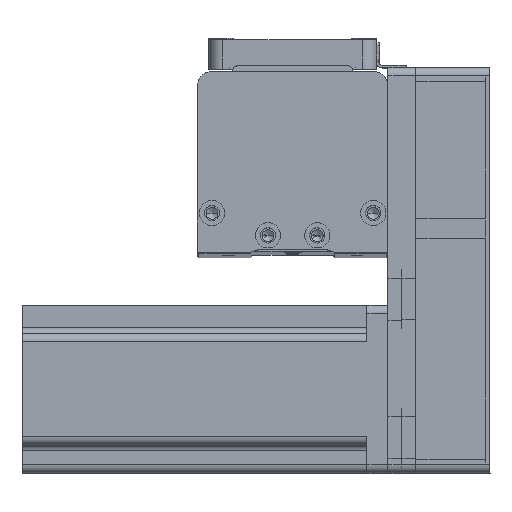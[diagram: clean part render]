
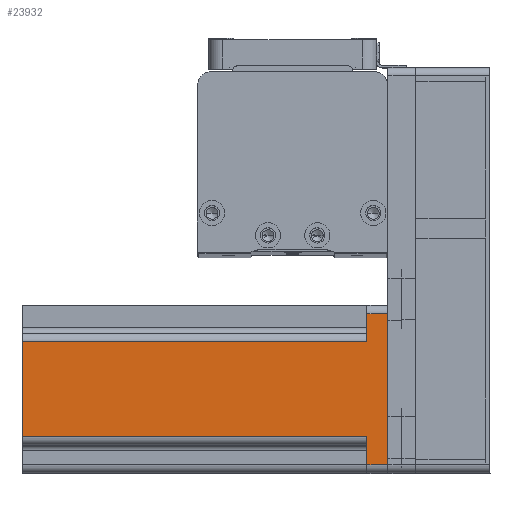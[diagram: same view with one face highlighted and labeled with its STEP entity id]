
A CAD part, top view. The second image highlights one B-rep face of the part: STEP entity #23932.
In plain terms, the highlighted planar face has unit normal (0, 0, 1) as drawn and (0, 1, 0) by its records, which use the part's own axes.
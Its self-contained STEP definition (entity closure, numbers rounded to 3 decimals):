
#1598 = CARTESIAN_POINT ( 'NONE',  ( -20., 30., 7.5 ) ) ;
#2434 = VECTOR ( 'NONE', #38667, 1000. ) ;
#2831 = LINE ( 'NONE', #17207, #29577 ) ;
#3116 = CARTESIAN_POINT ( 'NONE',  ( 27., 30., 7.5 ) ) ;
#4118 = EDGE_CURVE ( 'NONE', #18171, #44597, #33612, .T. ) ;
#4585 = CARTESIAN_POINT ( 'NONE',  ( 27., 30., 130.7 ) ) ;
#4853 = EDGE_CURVE ( 'NONE', #41421, #13151, #21013, .T. ) ;
#5223 = CARTESIAN_POINT ( 'NONE',  ( -27., 30., 0. ) ) ;
#5454 = ORIENTED_EDGE ( 'NONE', *, *, #15857, .F. ) ;
#7444 = DIRECTION ( 'NONE',  ( -1., 0., 0. ) ) ;
#7489 = CARTESIAN_POINT ( 'NONE',  ( 20., 30., 7.5 ) ) ;
#9439 = VECTOR ( 'NONE', #34073, 1000. ) ;
#9626 = AXIS2_PLACEMENT_3D ( 'NONE', #13494, #37873, #17005 ) ;
#9656 = CARTESIAN_POINT ( 'NONE',  ( -27., 30., 130.7 ) ) ;
#10354 = CARTESIAN_POINT ( 'NONE',  ( -17., 30., 7.5 ) ) ;
#11190 = ORIENTED_EDGE ( 'NONE', *, *, #35241, .T. ) ;
#11598 = DIRECTION ( 'NONE',  ( 0., 0., -1. ) ) ;
#12563 = VERTEX_POINT ( 'NONE', #3116 ) ;
#13151 = VERTEX_POINT ( 'NONE', #14376 ) ;
#13234 = ORIENTED_EDGE ( 'NONE', *, *, #4853, .T. ) ;
#13494 = CARTESIAN_POINT ( 'NONE',  ( 30., 30., 130.7 ) ) ;
#13636 = LINE ( 'NONE', #4585, #21825 ) ;
#14285 = CARTESIAN_POINT ( 'NONE',  ( 17., 30., 130.7 ) ) ;
#14376 = CARTESIAN_POINT ( 'NONE',  ( 17., 30., 7.5 ) ) ;
#14773 = EDGE_CURVE ( 'NONE', #44597, #32042, #17649, .T. ) ;
#15857 = EDGE_CURVE ( 'NONE', #12563, #13151, #32194, .T. ) ;
#16048 = VECTOR ( 'NONE', #20784, 1000. ) ;
#17005 = DIRECTION ( 'NONE',  ( 1., 0., 0. ) ) ;
#17207 = CARTESIAN_POINT ( 'NONE',  ( 30., 30., 130.7 ) ) ;
#17649 = LINE ( 'NONE', #9656, #9439 ) ;
#18171 = VERTEX_POINT ( 'NONE', #27467 ) ;
#20784 = DIRECTION ( 'NONE',  ( 0., 0., 1. ) ) ;
#21013 = LINE ( 'NONE', #14285, #2434 ) ;
#21785 = ORIENTED_EDGE ( 'NONE', *, *, #39098, .T. ) ;
#21825 = VECTOR ( 'NONE', #11598, 1000. ) ;
#22486 = CARTESIAN_POINT ( 'NONE',  ( -17., 30., 130.7 ) ) ;
#22992 = VERTEX_POINT ( 'NONE', #10354 ) ;
#23268 = ORIENTED_EDGE ( 'NONE', *, *, #4118, .T. ) ;
#23932 = ADVANCED_FACE ( 'NONE', ( #40353 ), #37712, .F. ) ;
#24331 = VECTOR ( 'NONE', #7444, 1000. ) ;
#25059 = ORIENTED_EDGE ( 'NONE', *, *, #34059, .F. ) ;
#27467 = CARTESIAN_POINT ( 'NONE',  ( 27., 30., 0. ) ) ;
#27869 = LINE ( 'NONE', #1598, #44297 ) ;
#29371 = CARTESIAN_POINT ( 'NONE',  ( 17., 30., 130.7 ) ) ;
#29577 = VECTOR ( 'NONE', #41614, 1000. ) ;
#31892 = DIRECTION ( 'NONE',  ( -1., 0., 0. ) ) ;
#32042 = VERTEX_POINT ( 'NONE', #33177 ) ;
#32194 = LINE ( 'NONE', #7489, #33297 ) ;
#32401 = ORIENTED_EDGE ( 'NONE', *, *, #14773, .T. ) ;
#33054 = DIRECTION ( 'NONE',  ( 1., 0., 0. ) ) ;
#33177 = CARTESIAN_POINT ( 'NONE',  ( -27., 30., 7.5 ) ) ;
#33297 = VECTOR ( 'NONE', #31892, 1000. ) ;
#33612 = LINE ( 'NONE', #36620, #24331 ) ;
#34059 = EDGE_CURVE ( 'NONE', #41421, #39729, #2831, .T. ) ;
#34073 = DIRECTION ( 'NONE',  ( 0., 0., 1. ) ) ;
#35241 = EDGE_CURVE ( 'NONE', #12563, #18171, #13636, .T. ) ;
#36036 = EDGE_CURVE ( 'NONE', #22992, #39729, #45016, .T. ) ;
#36620 = CARTESIAN_POINT ( 'NONE',  ( 30., 30., 0. ) ) ;
#37712 = PLANE ( 'NONE',  #9626 ) ;
#37873 = DIRECTION ( 'NONE',  ( 0., -1., 0. ) ) ;
#38667 = DIRECTION ( 'NONE',  ( 0., 0., -1. ) ) ;
#39098 = EDGE_CURVE ( 'NONE', #32042, #22992, #27869, .T. ) ;
#39729 = VERTEX_POINT ( 'NONE', #22486 ) ;
#39825 = ORIENTED_EDGE ( 'NONE', *, *, #36036, .T. ) ;
#40353 = FACE_OUTER_BOUND ( 'NONE', #44947, .T. ) ;
#41421 = VERTEX_POINT ( 'NONE', #29371 ) ;
#41614 = DIRECTION ( 'NONE',  ( -1., 0., 0. ) ) ;
#41730 = CARTESIAN_POINT ( 'NONE',  ( -17., 30., 130.7 ) ) ;
#44297 = VECTOR ( 'NONE', #33054, 1000. ) ;
#44597 = VERTEX_POINT ( 'NONE', #5223 ) ;
#44947 = EDGE_LOOP ( 'NONE', ( #21785, #39825, #25059, #13234, #5454, #11190, #23268, #32401 ) ) ;
#45016 = LINE ( 'NONE', #41730, #16048 ) ;
